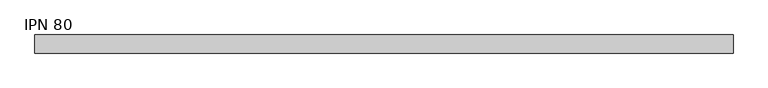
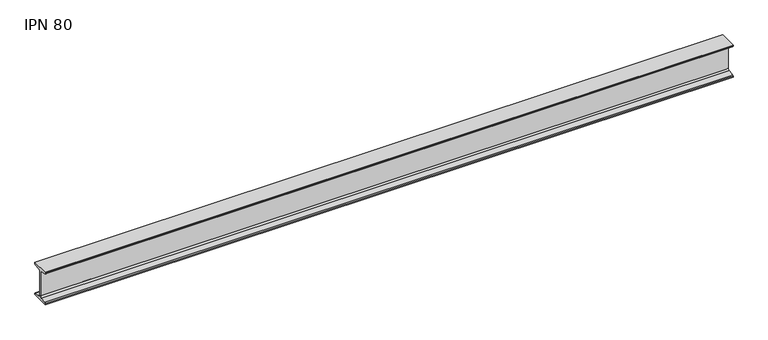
"""IFC4 building model written with IfcOpenShell, lengths in millimetres: beam geometry, IPN - Secciones en I con alas cónicas : IPN 80."""

import ifcopenshell
import ifcopenshell.guid

model = None  # the IFC model being written
_history = None  # IfcOwnerHistory: only IFC2X3 demands one
_inside = {}  # id of a spatial element -> (the spatial element, [elements in it])
_under = {}  # id of a project, library or spatial element -> (it, [spatial elements below it])
_declared = {}  # id of a project -> (the project, [libraries it declares])
_typed = {}  # id of a type object -> (the type object, [elements of that type])
_made_of = {}  # id of a material, layer set ... -> (it, [elements and type objects made of it])


def new_model(schema):
    """Start an empty IFC model of exactly this schema.

    Asked for "IFC4X3", IfcOpenShell would pick the latest addendum, in which some entities
    have other attributes; the version numbers below select the first issue.
    IFC2X3 requires an IfcOwnerHistory on every rooted entity: one is made here for all.
    """
    global model, _history
    if schema == "IFC4X3":
        model = ifcopenshell.file(schema_version=(4, 3, 0, 0))
    else:
        model = ifcopenshell.file(schema=schema)
    _inside.clear()
    _under.clear()
    _declared.clear()
    _typed.clear()
    _made_of.clear()
    _history = None
    if model.schema == "IFC2X3":
        org = make("IfcOrganization", Name="unknown")
        user = make(
            "IfcPersonAndOrganization",
            ThePerson=make("IfcPerson", FamilyName="unknown"),
            TheOrganization=org,
        )
        app = make(
            "IfcApplication",
            ApplicationDeveloper=org,
            Version="unknown",
            ApplicationFullName="unknown",
            ApplicationIdentifier="unknown",
        )
        _history = make(
            "IfcOwnerHistory",
            OwningUser=user,
            OwningApplication=app,
            ChangeAction="ADDED",
            CreationDate=0,
        )
    return model


def make(cls, **values):
    """One entity of the class cls with the attributes given. An attribute that is None is left unset."""
    return model.create_entity(
        cls, **{name: value for name, value in values.items() if value is not None}
    )


def rooted(cls, **values):
    """An entity with a GlobalId (a new one), such as an element, a storey or a relation."""
    return make(cls, GlobalId=ifcopenshell.guid.new(), OwnerHistory=_history, **values)


def si_unit(unit_type, name, prefix=None):
    """IfcSIUnit, for example si_unit("LENGTHUNIT", "METRE", prefix="MILLI")."""
    return make("IfcSIUnit", UnitType=unit_type, Prefix=prefix, Name=name)


def assignment(units):
    """IfcUnitAssignment: the units of a project."""
    return None if units is None else make("IfcUnitAssignment", Units=units)


def point(xyz):
    """IfcCartesianPoint."""
    return None if xyz is None else make("IfcCartesianPoint", Coordinates=xyz)


def direction(xyz):
    """IfcDirection."""
    return None if xyz is None else make("IfcDirection", DirectionRatios=xyz)


def frame(location, z_axis=None, x_axis=None):
    """IfcAxis2Placement3D, a coordinate frame: its origin and axes. An axis left out is left unset."""
    return make(
        "IfcAxis2Placement3D",
        Location=point(location),
        Axis=direction(z_axis),
        RefDirection=direction(x_axis),
    )


def frame_2d(location, x_axis=None):
    """IfcAxis2Placement2D, a coordinate frame in the plane: its origin and x axis."""
    return make(
        "IfcAxis2Placement2D", Location=point(location), RefDirection=direction(x_axis)
    )


def origin():
    """The frame at (0, 0, 0) with its axes left unset."""
    return frame((0.0, 0.0, 0.0))


def place(relative_to, where):
    """IfcLocalPlacement: puts the frame where relative to a parent placement (None: the world)."""
    return make(
        "IfcLocalPlacement", PlacementRelTo=relative_to, RelativePlacement=where
    )


def context(
    kind, dimensions, precision=None, world=None, true_north=None, identifier=None
):
    """IfcGeometricRepresentationContext, for example the 3D "Model" context."""
    return make(
        "IfcGeometricRepresentationContext",
        ContextIdentifier=identifier,
        ContextType=kind,
        CoordinateSpaceDimension=dimensions,
        Precision=precision,
        WorldCoordinateSystem=world,
        TrueNorth=true_north,
    )


def project(units=None, contexts=None):
    """IfcProject with its units and contexts."""
    return rooted(
        "IfcProject",
        Name="project",
        RepresentationContexts=contexts,
        UnitsInContext=assignment(units),
    )


def spatial(cls, under=None, at=None, **own):
    """A site, building, storey or space (cls), placed at a placement, below another one or the project."""
    s = rooted(cls, ObjectPlacement=at, **own)
    if under is not None:
        _under.setdefault(under.id(), (under, []))[1].append(s)
    return s


def polyline(points):
    """IfcPolyline through the points."""
    return make("IfcPolyline", Points=[point(p) for p in points])


def circle_curve(where, radius):
    """IfcCircle in the frame where."""
    return make("IfcCircle", Position=where, Radius=radius)


def trimmed(basis, trim1, trim2, sense, master):
    """IfcTrimmedCurve: the piece of a basis curve between two trims."""
    return make(
        "IfcTrimmedCurve",
        BasisCurve=basis,
        Trim1=trim1,
        Trim2=trim2,
        SenseAgreement=sense,
        MasterRepresentation=master,
    )


def segment(curve, same_sense, transition):
    """IfcCompositeCurveSegment."""
    return make(
        "IfcCompositeCurveSegment",
        Transition=transition,
        SameSense=same_sense,
        ParentCurve=curve,
    )


def composite_curve(segments, self_intersect=None):
    """IfcCompositeCurve: segments joined end to end."""
    return make("IfcCompositeCurve", Segments=segments, SelfIntersect=self_intersect)


def outline(outer, holes=None, kind="AREA"):
    """IfcArbitraryClosedProfileDef: a profile drawn as a closed curve; with holes, ...WithVoids."""
    if holes is None:
        return make("IfcArbitraryClosedProfileDef", ProfileType=kind, OuterCurve=outer)
    return make(
        "IfcArbitraryProfileDefWithVoids",
        ProfileType=kind,
        OuterCurve=outer,
        InnerCurves=holes,
    )


def extrude(swept, where, along, depth):
    """IfcExtrudedAreaSolid: the profile swept, set in the frame where, extruded along a direction by depth."""
    return make(
        "IfcExtrudedAreaSolid",
        SweptArea=swept,
        Position=where,
        ExtrudedDirection=direction(along),
        Depth=depth,
    )


def shape(context_of_items, identifier, shape_type, items):
    """IfcShapeRepresentation: the items that make up one representation, for example the "Body"."""
    return make(
        "IfcShapeRepresentation",
        ContextOfItems=context_of_items,
        RepresentationIdentifier=identifier,
        RepresentationType=shape_type,
        Items=items,
    )


def source(mapping_origin, context_of_items, identifier, shape_type, items):
    """IfcRepresentationMap: a shape defined once, which mapped items show again and again."""
    return make(
        "IfcRepresentationMap",
        MappingOrigin=mapping_origin,
        MappedRepresentation=shape(context_of_items, identifier, shape_type, items),
    )


def transform(
    local_origin,
    x_axis=None,
    y_axis=None,
    z_axis=None,
    scale=None,
    scale2=None,
    scale3=None,
    uniform=True,
):
    """IfcCartesianTransformationOperator3D, or its non-uniform kind. x_axis, y_axis, z_axis: its Axis1, 2, 3."""
    if uniform:
        return make(
            "IfcCartesianTransformationOperator3D",
            Axis1=direction(x_axis),
            Axis2=direction(y_axis),
            LocalOrigin=point(local_origin),
            Scale=scale,
            Axis3=direction(z_axis),
        )
    return make(
        "IfcCartesianTransformationOperator3DnonUniform",
        Axis1=direction(x_axis),
        Axis2=direction(y_axis),
        LocalOrigin=point(local_origin),
        Scale=scale,
        Axis3=direction(z_axis),
        Scale2=scale2,
        Scale3=scale3,
    )


def mapped(mapping_source, mapping_target):
    """IfcMappedItem: shows the shape of a source again, moved by a transform."""
    return make(
        "IfcMappedItem", MappingSource=mapping_source, MappingTarget=mapping_target
    )


def made_of(thing, what):
    """Note that an element or type object is made of a material, layer set ...; save() writes the relation."""
    if what is not None:
        _made_of.setdefault(what.id(), (what, []))[1].append(thing)
    return thing


def element(
    cls,
    number,
    at=None,
    inside=None,
    cuts=None,
    type_object=None,
    material=None,
    context=None,
    identifier="Body",
    shape_type=None,
    held_by="IfcProductDefinitionShape",
    body=None,
    shapes=None,
    **own,
):
    """One element of the class cls, such as IfcWall. Its Tag is "e" and its number.

    at: its placement. inside: the storey or other place that contains it. cuts: it is an
    opening in that element (IfcRelVoidsElement). A single representation is given by context,
    identifier, shape_type and body (its items); several are given by shapes. held_by: the class
    of the entity that holds the representations. save() writes the other relations.
    """
    e = rooted(cls, Tag="e%d" % number, ObjectPlacement=at, **own)
    if body is not None:
        shapes = [shape(context, identifier, shape_type, body)]
    if shapes is not None:
        e.Representation = make(held_by, Representations=shapes)
    if inside is not None:
        _inside.setdefault(inside.id(), (inside, []))[1].append(e)
    if cuts is not None:
        rooted(
            "IfcRelVoidsElement", RelatingBuildingElement=cuts, RelatedOpeningElement=e
        )
    if type_object is not None:
        _typed.setdefault(type_object.id(), (type_object, []))[1].append(e)
    return made_of(e, material)


def aggregate(whole, parts):
    """IfcRelAggregates: a whole, such as a stair, and the parts it consists of."""
    return rooted("IfcRelAggregates", RelatingObject=whole, RelatedObjects=parts)


def save(model, path):
    """Write the relations noted so far, then the file.

    IfcRelAggregates (storeys below a building ...), IfcRelContainedInSpatialStructure (elements
    in a storey), IfcRelDefinesByType, IfcRelAssociatesMaterial and IfcRelDeclares: one each for
    every whole, place, type object, material and project.
    """
    for whole, parts in _under.values():
        aggregate(whole, parts)
    for where, things in _inside.values():
        rooted(
            "IfcRelContainedInSpatialStructure",
            RelatedElements=things,
            RelatingStructure=where,
        )
    for kind, things in _typed.values():
        rooted("IfcRelDefinesByType", RelatedObjects=things, RelatingType=kind)
    for what, things in _made_of.values():
        rooted("IfcRelAssociatesMaterial", RelatedObjects=things, RelatingMaterial=what)
    for by, libraries in _declared.values():
        rooted("IfcRelDeclares", RelatingContext=by, RelatedDefinitions=libraries)
    model.write(path)


def ipn_80_84bd256f(model_context):
    return source(origin(), model_context, "Body", "SweptSolid", [
        extrude(outline(composite_curve([segment(polyline([(21.0, 40.0), (21.0, 37.5704306)]), True, "CONTINUOUS"), segment(trimmed(circle_curve(frame_2d((18.7, 37.5704306)), 2.3), [point((21.0, 37.5704306))], [point((19.01889, 35.2926446))], False, "CARTESIAN"), True, "CONTINUOUS"), segment(polyline([(19.01889, 35.2926446), (5.3092734, 33.3732983)]), True, "CONTINUOUS"), segment(trimmed(circle_curve(frame_2d((5.85, 29.5109655)), 3.9), [point((5.3092734, 33.3732983))], [point((1.95, 29.5109655))], True, "CARTESIAN"), True, "CONTINUOUS"), segment(polyline([(1.95, 29.5109655), (1.95, -29.5109655)]), True, "CONTINUOUS"), segment(trimmed(circle_curve(frame_2d((5.85, -29.5109655)), 3.9), [point((1.95, -29.5109655))], [point((5.3092734, -33.3732983))], True, "CARTESIAN"), True, "CONTINUOUS"), segment(polyline([(5.3092734, -33.3732983), (19.01889, -35.2926446)]), True, "CONTINUOUS"), segment(trimmed(circle_curve(frame_2d((18.7, -37.5704306)), 2.3), [point((19.01889, -35.2926446))], [point((21.0, -37.5704306))], False, "CARTESIAN"), True, "CONTINUOUS"), segment(polyline([(21.0, -37.5704306), (21.0, -40.0), (-21.0, -40.0), (-21.0, -37.5704306)]), True, "CONTINUOUS"), segment(trimmed(circle_curve(frame_2d((-18.7, -37.5704306)), 2.3), [point((-21.0, -37.5704306))], [point((-19.01889, -35.2926446))], False, "CARTESIAN"), True, "CONTINUOUS"), segment(polyline([(-19.01889, -35.2926446), (-5.3092734, -33.3732983)]), True, "CONTINUOUS"), segment(trimmed(circle_curve(frame_2d((-5.85, -29.5109655)), 3.9), [point((-5.3092734, -33.3732983))], [point((-1.95, -29.5109655))], True, "CARTESIAN"), True, "CONTINUOUS"), segment(polyline([(-1.95, -29.5109655), (-1.95, 29.5109655)]), True, "CONTINUOUS"), segment(trimmed(circle_curve(frame_2d((-5.85, 29.5109655)), 3.9), [point((-1.95, 29.5109655))], [point((-5.3092734, 33.3732983))], True, "CARTESIAN"), True, "CONTINUOUS"), segment(polyline([(-5.3092734, 33.3732983), (-19.01889, 35.2926446)]), True, "CONTINUOUS"), segment(trimmed(circle_curve(frame_2d((-18.7, 37.5704306)), 2.3), [point((-19.01889, 35.2926446))], [point((-21.0, 37.5704306))], False, "CARTESIAN"), True, "CONTINUOUS"), segment(polyline([(-21.0, 37.5704306), (-21.0, 40.0), (21.0, 40.0)]), True, "CONTINUOUS")], self_intersect=False)), frame((-803.0, 0.0, 0.0), z_axis=(1.0, 0.0, 0.0), x_axis=(0.0, 1.0, 0.0)), (0.0, 0.0, 1.0), 1615.0),
    ])


if __name__ == "__main__":
    model = new_model("IFC4")
    model_context = context("Model", 3, world=origin())
    ifc_project = project(units=[si_unit("LENGTHUNIT", "METRE", prefix="MILLI")], contexts=[model_context])
    site = spatial("IfcSite", under=ifc_project)
    building = spatial("IfcBuilding", under=site)
    placement = place(None, origin())
    ipn_80_shape = ipn_80_84bd256f(model_context)
    element("IfcBeam", 1, ObjectType="IPN - Secciones en I con alas cónicas : IPN 80", at=placement, inside=building, context=model_context, shape_type="MappedRepresentation", body=[
        mapped(ipn_80_shape, transform((0.0, 0.0, 0.0), x_axis=(1.0, 0.0, 0.0), y_axis=(0.0, 1.0, 0.0), z_axis=(0.0, 0.0, 1.0))),
    ])
    save(model, "model.ifc")
